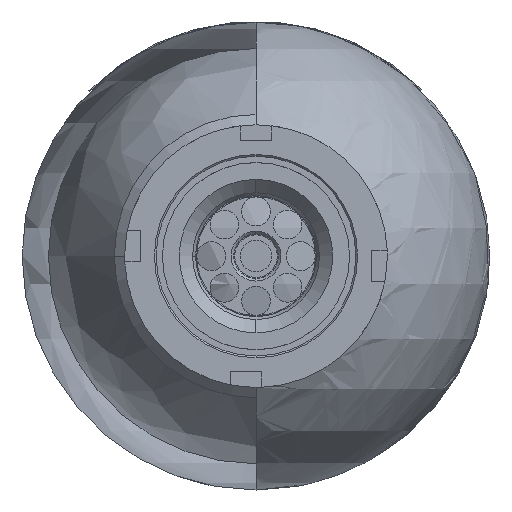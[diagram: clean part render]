
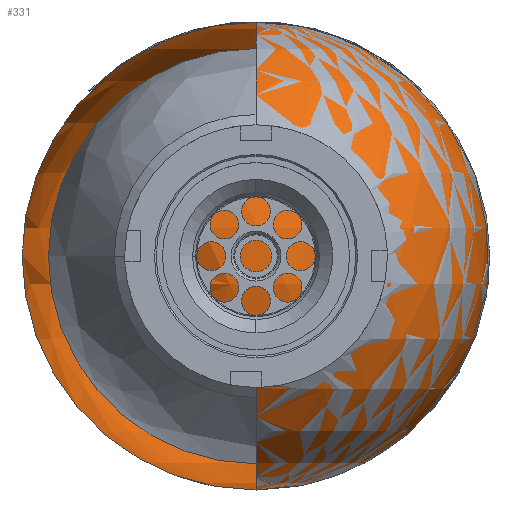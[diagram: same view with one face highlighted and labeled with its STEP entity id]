
A CAD part, front view. The second image highlights one B-rep face of the part: STEP entity #331.
In plain terms, the highlighted spherical face has radius 44.5 mm.
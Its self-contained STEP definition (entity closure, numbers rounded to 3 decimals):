
#253=CARTESIAN_POINT('',(-43.334,19.,-44.5));
#254=VERTEX_POINT('',#253);
#262=CARTESIAN_POINT('',(-43.334,-25.5,0.));
#263=VERTEX_POINT('',#262);
#264=CARTESIAN_POINT('',(-43.334,19.0,0.0));
#265=DIRECTION('',(1.0,0.0,0.0));
#266=DIRECTION('',(0.0,1.0,0.0));
#267=AXIS2_PLACEMENT_3D('',#264,#265,#266);
#268=CIRCLE('',#267,44.5);
#269=EDGE_CURVE('',#263,#254,#268,.T.);
#289=CARTESIAN_POINT('',(-43.334,19.,0.0));
#290=DIRECTION('',(0.0,0.0,1.0));
#291=DIRECTION('',(1.0,0.0,0.0));
#292=AXIS2_PLACEMENT_3D('',#289,#290,#291);
#293=SPHERICAL_SURFACE('',#292,44.5);
#294=CARTESIAN_POINT('',(-43.334,19.,44.5));
#295=VERTEX_POINT('',#294);
#296=CARTESIAN_POINT('',(-6.521,19.,25.0));
#297=VERTEX_POINT('',#296);
#298=CARTESIAN_POINT('',(-43.334,19.,0.0));
#299=DIRECTION('',(0.0,1.0,0.0));
#300=DIRECTION('',(1.0,0.0,0.0));
#301=AXIS2_PLACEMENT_3D('',#298,#299,#300);
#302=CIRCLE('',#301,44.5);
#303=EDGE_CURVE('',#295,#297,#302,.T.);
#304=ORIENTED_EDGE('',*,*,#303,.F.);
#305=CARTESIAN_POINT('',(-43.334,19.0,0.0));
#306=DIRECTION('',(1.0,0.0,0.0));
#307=DIRECTION('',(0.0,1.0,0.0));
#308=AXIS2_PLACEMENT_3D('',#305,#306,#307);
#309=CIRCLE('',#308,44.5);
#310=EDGE_CURVE('',#295,#263,#309,.T.);
#311=ORIENTED_EDGE('',*,*,#310,.T.);
#312=ORIENTED_EDGE('',*,*,#269,.T.);
#313=CARTESIAN_POINT('',(-6.521,19.,-25.0));
#314=VERTEX_POINT('',#313);
#315=CARTESIAN_POINT('',(-43.334,19.,0.0));
#316=DIRECTION('',(0.0,1.0,0.0));
#317=DIRECTION('',(1.0,0.0,0.0));
#318=AXIS2_PLACEMENT_3D('',#315,#316,#317);
#319=CIRCLE('',#318,44.5);
#320=EDGE_CURVE('',#314,#254,#319,.T.);
#321=ORIENTED_EDGE('',*,*,#320,.F.);
#322=CARTESIAN_POINT('',(-6.521,19.0,0.0));
#323=DIRECTION('',(1.0,0.0,0.0));
#324=DIRECTION('',(0.0,1.0,0.0));
#325=AXIS2_PLACEMENT_3D('',#322,#323,#324);
#326=CIRCLE('',#325,25.0);
#327=EDGE_CURVE('',#297,#314,#326,.T.);
#328=ORIENTED_EDGE('',*,*,#327,.F.);
#329=EDGE_LOOP('',(#304,#311,#312,#321,#328));
#330=FACE_OUTER_BOUND('',#329,.T.);
#331=ADVANCED_FACE('',(#330),#293,.T.);
